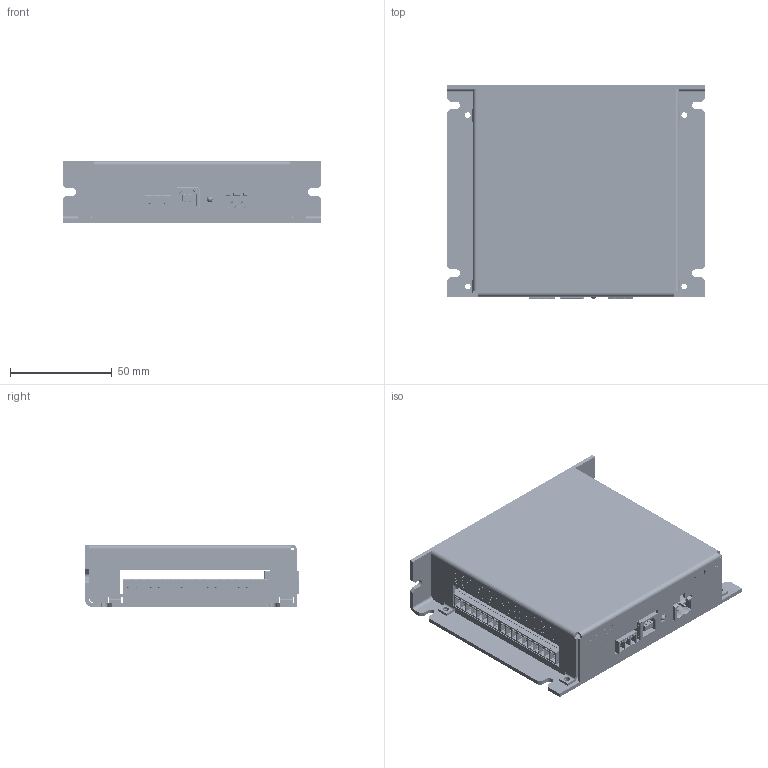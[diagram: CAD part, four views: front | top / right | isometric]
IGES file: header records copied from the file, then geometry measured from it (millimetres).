
Start section: SolidWorks IGES file using analytic representation for surfaces
Global section: file name: C:\Users\IEUser\Documents\Christine folder\Arcus\Project #26 PMX Drawings\PMX-4CX-SA\PMX-4CX-SA Assy.IGS; native system: SolidWorks 2008; preprocessor: SolidWorks 2008; author: IEUser; date: 140521.204514; units: inch
Bounding box: 127 x 105.14 x 30.48 mm (x, y, z)
Surface area: 102238.1 mm2 (no closed solid volume)
Topology: 0 solids, 0 shells, 5684 faces, 44020 edges, 43940 vertices
Faces by surface type: bspline 5037, revolution 647
